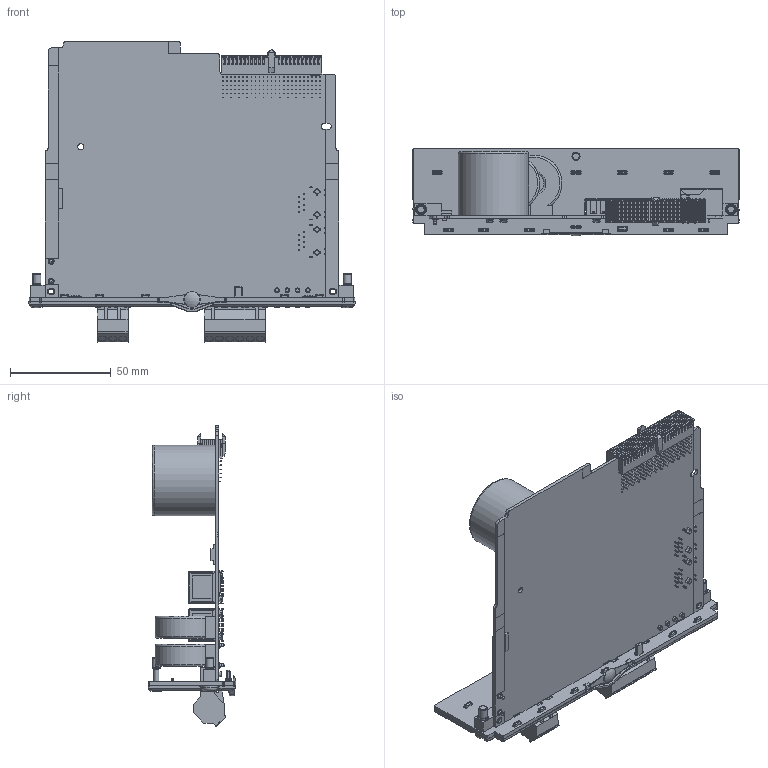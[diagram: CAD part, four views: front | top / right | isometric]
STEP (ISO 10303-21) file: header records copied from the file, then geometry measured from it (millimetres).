
FILE_DESCRIPTION(/* description */ (''),/* implementation_level */ '2;1');
FILE_NAME(/* name */ 'PSM3.2_3D CAD_20250303.stp',/* time_stamp */ '2025-03-03T13:24:59+01:00',/* author */ ('DSP'),/* organization */ (''),/* preprocessor_version */ 'ST-DEVELOPER v19.2',/* originating_system */ 'Autodesk Inventor 2023',/* authorisation */ '');
FILE_SCHEMA (('AUTOMOTIVE_DESIGN { 1 0 10303 214 3 1 1 }'));
Length unit declared in the file: millimetre
Products named in the file (1): PSM3.2_3D CAD_SMPL_20250303
Bounding box: 161.99 x 43.57 x 149.2 mm (x, y, z)
Volume: 127075.5 mm3; surface area: 83412.4 mm2
Topology: 1 solids, 1 shells, 6463 faces, 17130 edges, 10854 vertices
Faces by surface type: plane 4805, cylinder 1147, cone 183, bspline 155, torus 128, sphere 45
Full cylindrical faces by diameter (mm): 0.434 x2, 0.8 x8, 1.5 x2, 2.2 x4, 2.3 x4, 2.459 x2, 2.5 x3, 3 x9, 3.05 x1, 3.242 x2, 3.3 x1, 4 x12, 4.4 x2, 4.5 x4, 5.5 x2, 8 x3, 10 x2, 35 x1
Entity records: 210949 total; most frequent: CARTESIAN_POINT 43289, ORIENTED_EDGE 34046, DIRECTION 31845, EDGE_CURVE 17023, LINE 13867, VECTOR 13867, VERTEX_POINT 10854, AXIS2_PLACEMENT_3D 8989
